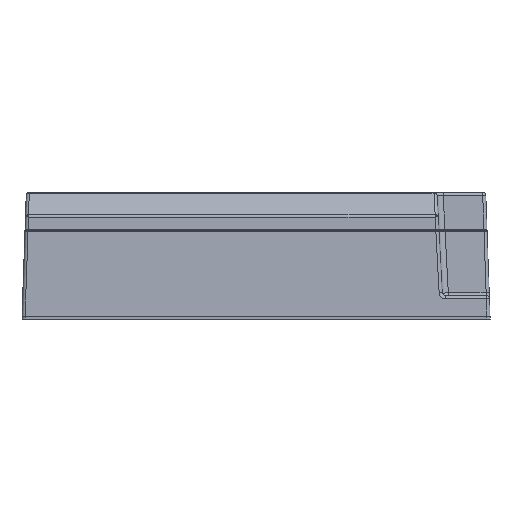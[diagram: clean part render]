
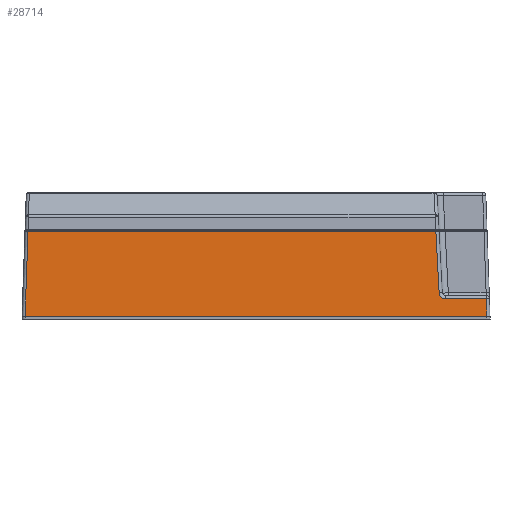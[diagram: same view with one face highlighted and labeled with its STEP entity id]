
A CAD part, top view. The second image highlights one B-rep face of the part: STEP entity #28714.
In plain terms, the highlighted planar face has unit normal (0, 0.035, 0.999).
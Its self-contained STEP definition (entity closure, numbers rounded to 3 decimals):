
#663 = CARTESIAN_POINT ( 'NONE',  ( 47.695, 3.604, 20.819 ) ) ;
#836 = ORIENTED_EDGE ( 'NONE', *, *, #33566, .T. ) ;
#1153 = CARTESIAN_POINT ( 'NONE',  ( 37.916, 4.807, 20.777 ) ) ;
#1321 = VERTEX_POINT ( 'NONE', #10731 ) ;
#1812 = LINE ( 'NONE', #40537, #42696 ) ;
#2796 = DIRECTION ( 'NONE',  ( -1., 0., 0. ) ) ;
#4907 = VERTEX_POINT ( 'NONE', #48551 ) ;
#8697 = LINE ( 'NONE', #36433, #49460 ) ;
#10568 = EDGE_CURVE ( 'NONE', #44995, #4907, #28964, .T. ) ;
#10731 = CARTESIAN_POINT ( 'NONE',  ( 37.249, 17.539, 20.333 ) ) ;
#11217 = EDGE_CURVE ( 'NONE', #48411, #46732, #39784, .T. ) ;
#11485 = ORIENTED_EDGE ( 'NONE', *, *, #23794, .T. ) ;
#11546 = CARTESIAN_POINT ( 'NONE',  ( -47.821, -0.022, 20.946 ) ) ;
#12367 = DIRECTION ( 'NONE',  ( -1., 0., 0. ) ) ;
#12416 = LINE ( 'NONE', #19417, #32204 ) ;
#14226 = LINE ( 'NONE', #22859, #33962 ) ;
#15088 = EDGE_CURVE ( 'NONE', #49746, #43472, #1812, .T. ) ;
#15556 = DIRECTION ( 'NONE',  ( -0.035, -0.999, 0.035 ) ) ;
#15649 = EDGE_CURVE ( 'NONE', #46732, #49746, #12416, .T. ) ;
#16957 = DIRECTION ( 'NONE',  ( -0.052, 0.998, -0.035 ) ) ;
#18105 = ORIENTED_EDGE ( 'NONE', *, *, #11217, .T. ) ;
#18421 = CARTESIAN_POINT ( 'NONE',  ( 39.185, 3.604, 20.819 ) ) ;
#18438 = FACE_OUTER_BOUND ( 'NONE', #28910, .T. ) ;
#18866 = VECTOR ( 'NONE', #15556, 1000. ) ;
#19102 = ORIENTED_EDGE ( 'NONE', *, *, #50336, .T. ) ;
#19417 = CARTESIAN_POINT ( 'NONE',  ( -48.455, 0., 20.945 ) ) ;
#20580 = DIRECTION ( 'NONE',  ( 0., 0.035, 0.999 ) ) ;
#22859 = CARTESIAN_POINT ( 'NONE',  ( -47.199, 17.539, 20.333 ) ) ;
#23794 = EDGE_CURVE ( 'NONE', #1321, #48411, #14226, .T. ) ;
#24608 = ORIENTED_EDGE ( 'NONE', *, *, #10568, .F. ) ;
#26195 = CARTESIAN_POINT ( 'NONE',  ( 37.916, 4.807, 20.777 ) ) ;
#26401 = ORIENTED_EDGE ( 'NONE', *, *, #15649, .T. ) ;
#26704 = CARTESIAN_POINT ( 'NONE',  ( 47.82, 0., 20.945 ) ) ;
#28069 = LINE ( 'NONE', #36040, #48962 ) ;
#28714 = ADVANCED_FACE ( 'NONE', ( #18438 ), #43964, .T. ) ;
#28910 = EDGE_LOOP ( 'NONE', ( #836, #11485, #18105, #26401, #40114, #19102, #24608 ) ) ;
#28964 =( BOUNDED_CURVE ( )  B_SPLINE_CURVE ( 3, ( #26195, #38044, #41986, #18421 ),
 .UNSPECIFIED., .F., .F. ) 
 B_SPLINE_CURVE_WITH_KNOTS ( ( 4, 4 ),
 ( 4.765, 6.283 ),
 .UNSPECIFIED. ) 
 CURVE ( )  GEOMETRIC_REPRESENTATION_ITEM ( )  RATIONAL_B_SPLINE_CURVE ( ( 1., 0.817, 0.817, 1. ) ) 
 REPRESENTATION_ITEM ( '' )  );
#32041 = CARTESIAN_POINT ( 'NONE',  ( -47.208, 17.539, 20.333 ) ) ;
#32204 = VECTOR ( 'NONE', #39022, 1000. ) ;
#33566 = EDGE_CURVE ( 'NONE', #44995, #1321, #8697, .T. ) ;
#33962 = VECTOR ( 'NONE', #2796, 1000. ) ;
#34243 = AXIS2_PLACEMENT_3D ( 'NONE', #44140, #20580, #48069 ) ;
#36040 = CARTESIAN_POINT ( 'NONE',  ( 38.582, 3.604, 20.819 ) ) ;
#36433 = CARTESIAN_POINT ( 'NONE',  ( 37.931, 4.522, 20.787 ) ) ;
#36444 = CARTESIAN_POINT ( 'NONE',  ( -47.82, 0., 20.945 ) ) ;
#38044 = CARTESIAN_POINT ( 'NONE',  ( 37.954, 4.095, 20.802 ) ) ;
#39022 = DIRECTION ( 'NONE',  ( 1., 0., 0. ) ) ;
#39784 = LINE ( 'NONE', #11546, #18866 ) ;
#40114 = ORIENTED_EDGE ( 'NONE', *, *, #15088, .T. ) ;
#40537 = CARTESIAN_POINT ( 'NONE',  ( 47.703, 3.354, 20.828 ) ) ;
#41986 = CARTESIAN_POINT ( 'NONE',  ( 38.471, 3.604, 20.819 ) ) ;
#42696 = VECTOR ( 'NONE', #48480, 1000. ) ;
#43472 = VERTEX_POINT ( 'NONE', #663 ) ;
#43964 = PLANE ( 'NONE',  #34243 ) ;
#44140 = CARTESIAN_POINT ( 'NONE',  ( -48.455, 0., 20.945 ) ) ;
#44995 = VERTEX_POINT ( 'NONE', #1153 ) ;
#46732 = VERTEX_POINT ( 'NONE', #36444 ) ;
#48069 = DIRECTION ( 'NONE',  ( 0., -0.999, 0.035 ) ) ;
#48411 = VERTEX_POINT ( 'NONE', #32041 ) ;
#48480 = DIRECTION ( 'NONE',  ( -0.035, 0.999, -0.035 ) ) ;
#48551 = CARTESIAN_POINT ( 'NONE',  ( 39.185, 3.604, 20.819 ) ) ;
#48962 = VECTOR ( 'NONE', #12367, 1000. ) ;
#49460 = VECTOR ( 'NONE', #16957, 1000. ) ;
#49746 = VERTEX_POINT ( 'NONE', #26704 ) ;
#50336 = EDGE_CURVE ( 'NONE', #43472, #4907, #28069, .T. ) ;
